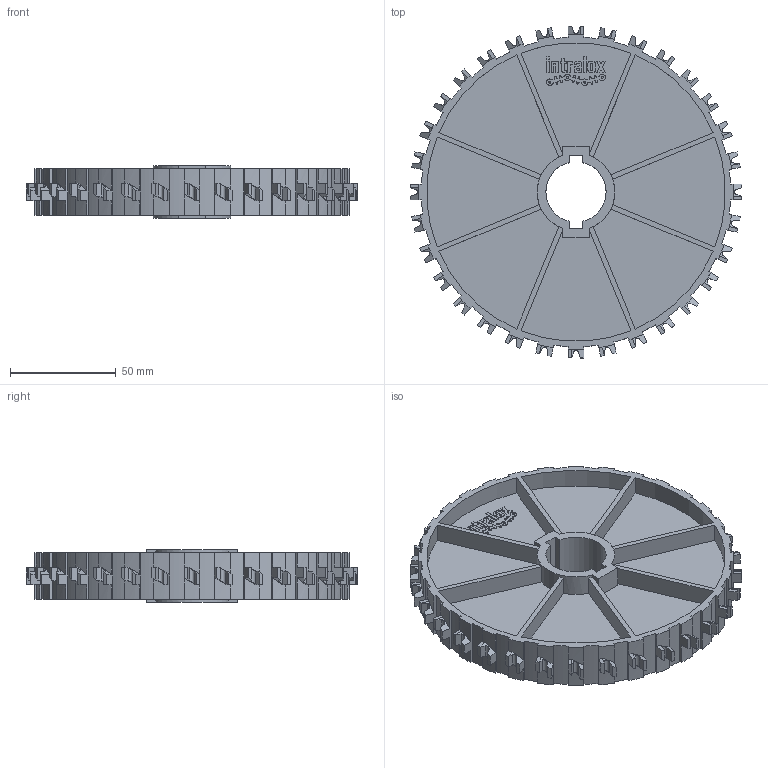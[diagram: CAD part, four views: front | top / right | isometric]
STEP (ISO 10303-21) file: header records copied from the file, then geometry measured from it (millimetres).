
FILE_DESCRIPTION((''),'2;1');
FILE_NAME('S1100_SPROCKET_61X1_PILOT','2008-12-12T',('jmumphre'),(''),'PRO/ENGINEER BY PARAMETRIC TECHNOLOGY CORPORATION, 2008150','PRO/ENGINEER BY PARAMETRIC TECHNOLOGY CORPORATION, 2008150','');
FILE_SCHEMA(('CONFIG_CONTROL_DESIGN'));
Length unit declared in the file: inch
Products named in the file (1): S1100_SPROCKET_61X1_PILOT
Bounding box: 157.33 x 157.33 x 24.89 mm (x, y, z)
Volume: 131440.9 mm3; surface area: 75990.9 mm2
Topology: 1 solids, 1 shells, 776 faces, 2204 edges, 1448 vertices
Faces by surface type: plane 522, cylinder 254
Entity records: 26208 total; most frequent: CARTESIAN_POINT 5804, ORIENTED_EDGE 4408, DIRECTION 4096, EDGE_CURVE 2204, VECTOR 1608, LINE 1608, VERTEX_POINT 1448, AXIS2_PLACEMENT_3D 1244
